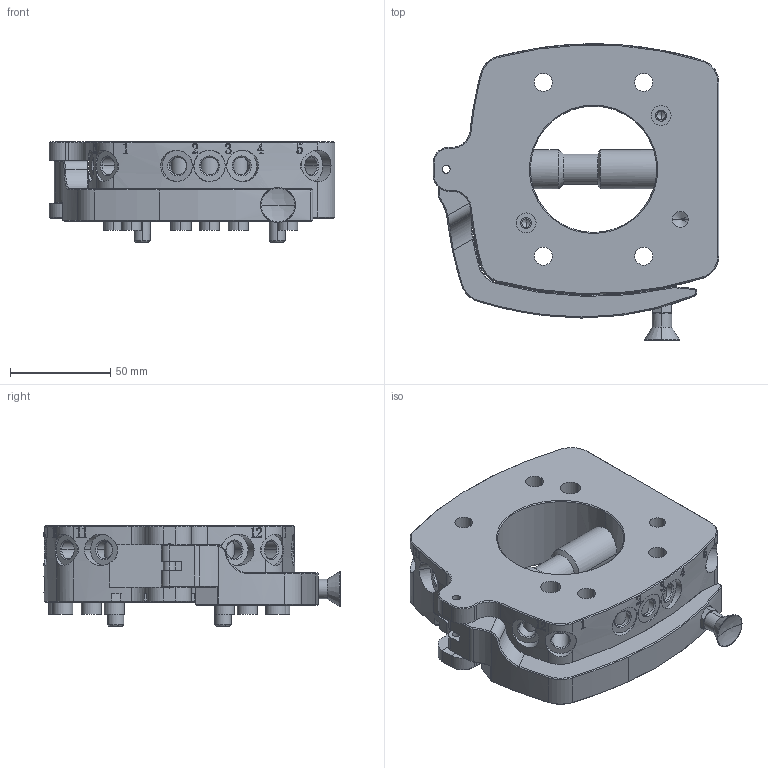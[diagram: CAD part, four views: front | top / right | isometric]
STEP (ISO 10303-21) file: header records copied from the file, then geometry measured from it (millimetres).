
FILE_DESCRIPTION (( 'STEP AP203' ), '1' );
FILE_NAME ('QC-R43.STEP', '2025-01-06T11:51:48', ( 'Windows User' ), ( 'P R C' ), 'SwSTEP 2.0', 'SolidWorks 2018', '' );
FILE_SCHEMA (( 'CONFIG_CONTROL_DESIGN' ));
Products named in the file (1): QC-R43
Bounding box: 142.5 x 147.61 x 50 mm (x, y, z)
Surface area: 80610.9 mm2 (no closed solid volume)
Topology: 0 solids, 14 shells, 869 faces, 2154 edges, 1343 vertices
Faces by surface type: cylinder 284, plane 236, cone 181, bspline 168
Entity records: 63036 total; most frequent: CARTESIAN_POINT 43641, ORIENTED_EDGE 4214, DIRECTION 3596, EDGE_CURVE 2110, VERTEX_POINT 1343, AXIS2_PLACEMENT_3D 1322, EDGE_LOOP 973, LINE 952
